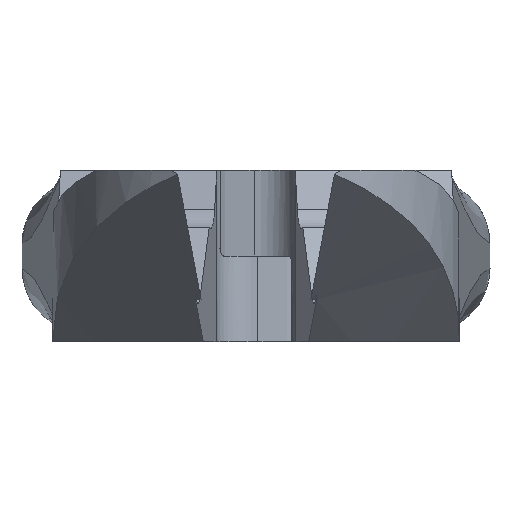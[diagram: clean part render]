
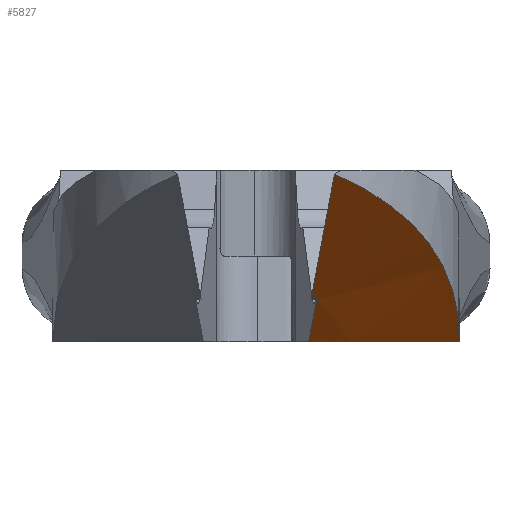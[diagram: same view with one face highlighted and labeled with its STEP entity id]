
A CAD part, left-side view. The second image highlights one B-rep face of the part: STEP entity #5827.
In plain terms, the highlighted cylindrical face has radius 75 mm (diameter 150 mm), a partial arc.
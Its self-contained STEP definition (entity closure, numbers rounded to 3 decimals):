
#473 = EDGE_LOOP ( 'NONE', ( #1939, #6326, #4926, #4030, #6293 ) ) ;
#490 = CARTESIAN_POINT ( 'NONE',  ( -24.537, -0.001, -9.032 ) ) ;
#906 = CARTESIAN_POINT ( 'NONE',  ( -24.537, -0.4, -9.031 ) ) ;
#942 = CARTESIAN_POINT ( 'NONE',  ( -34.219, -1.664, -0.908 ) ) ;
#1377 = EDGE_CURVE ( 'NONE', #5349, #5368, #2196, .T. ) ;
#1467 = EDGE_CURVE ( 'NONE', #2988, #1560, #3518, .T. ) ;
#1474 = CARTESIAN_POINT ( 'NONE',  ( -33.248, -3.146, -1.652 ) ) ;
#1560 = VERTEX_POINT ( 'NONE', #2435 ) ;
#1857 = VERTEX_POINT ( 'NONE', #6399 ) ;
#1939 = ORIENTED_EDGE ( 'NONE', *, *, #1377, .F. ) ;
#1988 = FACE_OUTER_BOUND ( 'NONE', #473, .T. ) ;
#2196 = B_SPLINE_CURVE_WITH_KNOTS ( 'NONE', 3,
 ( #906, #4197, #3953, #490 ),
 .UNSPECIFIED., .F., .F.,
 ( 4, 4 ),
 ( 0., 1. ),
 .UNSPECIFIED. ) ;
#2214 = CARTESIAN_POINT ( 'NONE',  ( -20.998, -0.4, -12. ) ) ;
#2435 = CARTESIAN_POINT ( 'NONE',  ( -19.667, -11.307, -12. ) ) ;
#2665 = VECTOR ( 'NONE', #6143, 1000. ) ;
#2690 = CARTESIAN_POINT ( 'NONE',  ( -24.537, -0.4, -9.031 ) ) ;
#2725 = EDGE_CURVE ( 'NONE', #1560, #1857, #4115, .T. ) ;
#2789 = CARTESIAN_POINT ( 'NONE',  ( -35., -0.001, -0.253 ) ) ;
#2808 = CARTESIAN_POINT ( 'NONE',  ( -31.841, -4.798, -2.704 ) ) ;
#2988 = VERTEX_POINT ( 'NONE', #3600 ) ;
#3034 = CARTESIAN_POINT ( 'NONE',  ( -31.55, -5.118, -2.92 ) ) ;
#3064 = CARTESIAN_POINT ( 'NONE',  ( -30.949, -5.738, -3.366 ) ) ;
#3112 = CARTESIAN_POINT ( 'NONE',  ( -30.639, -6.036, -3.595 ) ) ;
#3139 = CARTESIAN_POINT ( 'NONE',  ( -29.695, -6.892, -4.292 ) ) ;
#3158 = CARTESIAN_POINT ( 'NONE',  ( -29.042, -7.411, -4.775 ) ) ;
#3181 = CARTESIAN_POINT ( 'NONE',  ( -27.695, -8.354, -5.775 ) ) ;
#3334 = CARTESIAN_POINT ( 'NONE',  ( -27., -8.779, -6.294 ) ) ;
#3338 = CARTESIAN_POINT ( 'NONE',  ( -29.609, -0.001, -4.776 ) ) ;
#3359 = CARTESIAN_POINT ( 'NONE',  ( -25.931, -9.348, -7.1 ) ) ;
#3403 = CARTESIAN_POINT ( 'NONE',  ( -25.569, -9.526, -7.374 ) ) ;
#3518 = B_SPLINE_CURVE_WITH_KNOTS ( 'NONE', 3,
 ( #2789, #942, #1474, #2808, #3034, #3064, #3112, #3139, #3158, #3181, #3334, #3359, #3403, #3599, #3653, #3680, #3702, #3728 ),
 .UNSPECIFIED., .F., .F.,
 ( 4, 2, 2, 2, 2, 2, 2, 2, 4 ),
 ( 0., 0.006, 0.007, 0.009, 0.012, 0.014, 0.016, 0.017, 0.023 ),
 .UNSPECIFIED. ) ;
#3599 = CARTESIAN_POINT ( 'NONE',  ( -24.844, -9.857, -7.925 ) ) ;
#3600 = CARTESIAN_POINT ( 'NONE',  ( -35., -0.001, -0.253 ) ) ;
#3653 = CARTESIAN_POINT ( 'NONE',  ( -24.48, -10.01, -8.204 ) ) ;
#3680 = CARTESIAN_POINT ( 'NONE',  ( -22.652, -10.718, -9.612 ) ) ;
#3681 = LINE ( 'NONE', #4096, #4986 ) ;
#3688 = EDGE_CURVE ( 'NONE', #1857, #5349, #3681, .T. ) ;
#3702 = CARTESIAN_POINT ( 'NONE',  ( -21.167, -11.097, -10.782 ) ) ;
#3728 = CARTESIAN_POINT ( 'NONE',  ( -19.667, -11.307, -12. ) ) ;
#3828 = CARTESIAN_POINT ( 'NONE',  ( -24.537, -0.001, -9.032 ) ) ;
#3953 = CARTESIAN_POINT ( 'NONE',  ( -24.537, -0.134, -9.032 ) ) ;
#4030 = ORIENTED_EDGE ( 'NONE', *, *, #1467, .F. ) ;
#4076 = DIRECTION ( 'NONE',  ( 0.643, 0., 0.766 ) ) ;
#4096 = CARTESIAN_POINT ( 'NONE',  ( -27.608, -0.4, -6.454 ) ) ;
#4115 =( BOUNDED_CURVE ( )  B_SPLINE_CURVE ( 3, ( #4484, #6699, #5616, #2214 ),
 .UNSPECIFIED., .F., .F. ) 
 B_SPLINE_CURVE_WITH_KNOTS ( ( 4, 4 ),
 ( 6.132, 6.278 ),
 .UNSPECIFIED. ) 
 CURVE ( )  GEOMETRIC_REPRESENTATION_ITEM ( )  RATIONAL_B_SPLINE_CURVE ( ( 1., 0.998, 0.998, 1. ) ) 
 REPRESENTATION_ITEM ( '' )  );
#4197 = CARTESIAN_POINT ( 'NONE',  ( -24.537, -0.267, -9.032 ) ) ;
#4484 = CARTESIAN_POINT ( 'NONE',  ( -19.667, -11.307, -12. ) ) ;
#4926 = ORIENTED_EDGE ( 'NONE', *, *, #2725, .F. ) ;
#4986 = VECTOR ( 'NONE', #6330, 1000. ) ;
#5349 = VERTEX_POINT ( 'NONE', #2690 ) ;
#5368 = VERTEX_POINT ( 'NONE', #3828 ) ;
#5616 = CARTESIAN_POINT ( 'NONE',  ( -20.968, -4.053, -12. ) ) ;
#5827 = ADVANCED_FACE ( 'NONE', ( #1988 ), #6099, .T. ) ;
#5971 = AXIS2_PLACEMENT_3D ( 'NONE', #6340, #6881, #4076 ) ;
#6099 = CYLINDRICAL_SURFACE ( 'NONE', #5971, 75. ) ;
#6143 = DIRECTION ( 'NONE',  ( -0.766, 0., 0.643 ) ) ;
#6293 = ORIENTED_EDGE ( 'NONE', *, *, #6595, .F. ) ;
#6326 = ORIENTED_EDGE ( 'NONE', *, *, #3688, .F. ) ;
#6330 = DIRECTION ( 'NONE',  ( -0.766, 0., 0.643 ) ) ;
#6340 = CARTESIAN_POINT ( 'NONE',  ( 28.08, -0.001, 44.722 ) ) ;
#6399 = CARTESIAN_POINT ( 'NONE',  ( -20.998, -0.4, -12. ) ) ;
#6595 = EDGE_CURVE ( 'NONE', #5368, #2988, #6984, .T. ) ;
#6699 = CARTESIAN_POINT ( 'NONE',  ( -20.523, -7.696, -12. ) ) ;
#6881 = DIRECTION ( 'NONE',  ( -0.766, 0., 0.643 ) ) ;
#6984 = LINE ( 'NONE', #3338, #2665 ) ;
